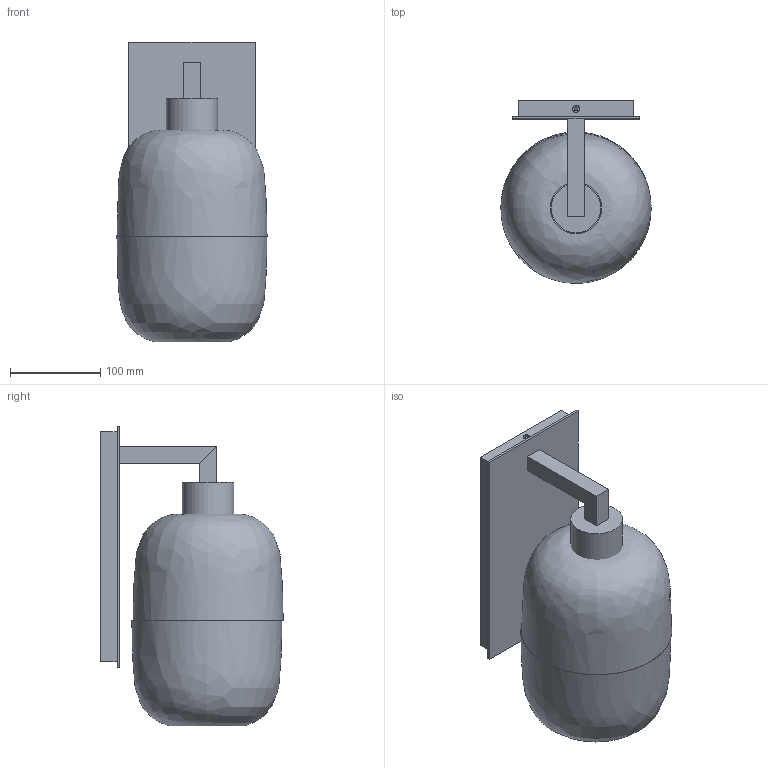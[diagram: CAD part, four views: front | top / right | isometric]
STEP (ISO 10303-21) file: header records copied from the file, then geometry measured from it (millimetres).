
FILE_DESCRIPTION(/* description */ (''),/* implementation_level */ '2;1');
FILE_NAME(/* name */ 'C:/Users/zach/Niche/Product Development - Documents/CAD Models/Sconces/Elongated/Balon - Sconce/Niche - Balon - Sconce.step',/* time_stamp */ '2022-08-15T11:33:18-04:00',/* author */ (''),/* organization */ (''),/* preprocessor_version */ 'ST-DEVELOPER v19',/* originating_system */ 'Autodesk Translation Framework v11.7.0.108',/* authorisation */ '');
FILE_SCHEMA (('AUTOMOTIVE_DESIGN { 1 0 10303 214 3 1 1 }'));
Length unit declared in the file: inch
Products named in the file (10): Elongated Sconce - Balon; Back Plate; Knurled Shade Ring; Screw Top; Sconce; Socket Cover; Screw Bottom; Socket - E26; T9-Bulb; E26 Base
Assembly tree (9 placements, depth 2):
  Elongated Sconce - Balon
    Back Plate
    Knurled Shade Ring
    Screw Top
    Sconce
    Socket Cover
    Screw Bottom
    Socket - E26
    T9-Bulb
    E26 Base
Bounding box: 165.97 x 201.61 x 331.21 mm (x, y, z)
Volume: 630851.6 mm3; surface area: 633684.5 mm2
Topology: 11 solids, 11 shells, 270 faces, 683 edges, 442 vertices
Faces by surface type: plane 132, cylinder 79, bspline 46, cone 10, torus 2, sphere 1
Full cylindrical faces by diameter (mm): 3.325 x6, 3.893 x2, 4.097 x11, 5.08 x1, 7.62 x2, 24.13 x1, 25.4 x1, 29.21 x9, 31.171 x4, 31.542 x8, 33.337 x3, 38.1 x1, 54.61 x1, 57.15 x1, 59.182 x1, 82.55 x1
Entity records: 19019 total; most frequent: CARTESIAN_POINT 12621, ORIENTED_EDGE 1360, DIRECTION 1052, EDGE_CURVE 680, VERTEX_POINT 442, LINE 384, VECTOR 384, AXIS2_PLACEMENT_3D 334
